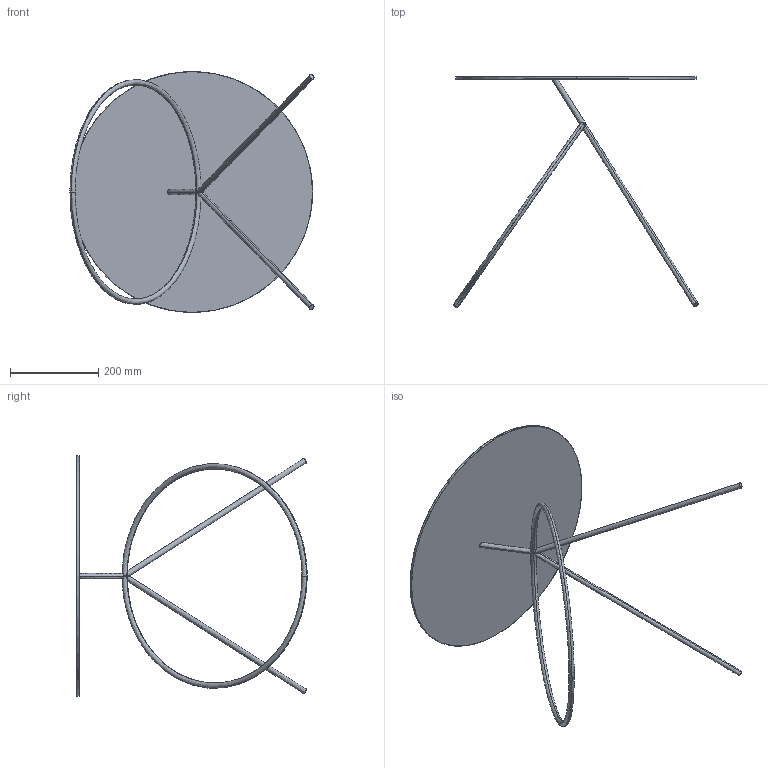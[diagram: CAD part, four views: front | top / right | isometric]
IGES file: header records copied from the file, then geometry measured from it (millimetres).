
Start section: SolidWorks IGES file using analytic representation for surfaces
Global section: file name: Z:\01-VICCARBE\VICCARBE TECNICO 2016\6.- Studio VCCB\Otros\Pedro Venzon\Bamba\VICCARBE_BAMBA 3D.IGS; native system: SolidWorks 2013; preprocessor: SolidWorks 2013; author: Usuario; date: 180626.085647; units: millimetre
Bounding box: 552.3 x 520.99 x 545 mm (x, y, z)
Surface area: 578823.6 mm2 (no closed solid volume)
Topology: 0 solids, 0 shells, 16 faces, 466 edges, 466 vertices
Faces by surface type: bspline 8, revolution 8
